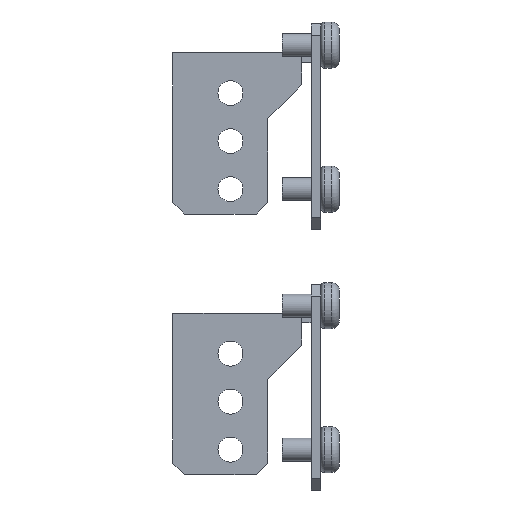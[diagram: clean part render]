
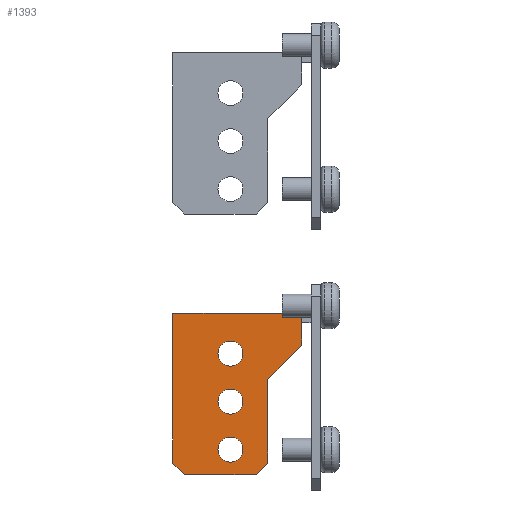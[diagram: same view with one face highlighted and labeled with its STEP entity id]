
A CAD part, front view. The second image highlights one B-rep face of the part: STEP entity #1393.
In plain terms, the highlighted planar face has unit normal (0, -1, 0).
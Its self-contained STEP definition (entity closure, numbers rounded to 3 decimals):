
#15 = DIRECTION ( 'NONE',  ( 0., 0., 1. ) ) ;
#16 = CARTESIAN_POINT ( 'NONE',  ( -173.5, 0., -35.5 ) ) ;
#18 = EDGE_LOOP ( 'NONE', ( #2769, #2122 ) ) ;
#32 = CARTESIAN_POINT ( 'NONE',  ( -188.5, 0., 0. ) ) ;
#49 = DIRECTION ( 'NONE',  ( 0., 0., 1. ) ) ;
#72 = VERTEX_POINT ( 'NONE', #1595 ) ;
#202 = CIRCLE ( 'NONE', #1526, 3.25 ) ;
#206 = DIRECTION ( 'NONE',  ( -1., 0., 0. ) ) ;
#238 = ORIENTED_EDGE ( 'NONE', *, *, #778, .F. ) ;
#251 = VERTEX_POINT ( 'NONE', #718 ) ;
#254 = CARTESIAN_POINT ( 'NONE',  ( -173.5, 0., -10.5 ) ) ;
#257 = VERTEX_POINT ( 'NONE', #2363 ) ;
#259 = CARTESIAN_POINT ( 'NONE',  ( -188.5, 0., 0. ) ) ;
#260 = AXIS2_PLACEMENT_3D ( 'NONE', #1599, #672, #2544 ) ;
#281 = VECTOR ( 'NONE', #290, 1000. ) ;
#286 = VERTEX_POINT ( 'NONE', #1776 ) ;
#290 = DIRECTION ( 'NONE',  ( 0., 0., 1. ) ) ;
#320 = DIRECTION ( 'NONE',  ( 0., 0., 1. ) ) ;
#322 = VERTEX_POINT ( 'NONE', #809 ) ;
#347 = DIRECTION ( 'NONE',  ( 0., 0., -1. ) ) ;
#403 = CARTESIAN_POINT ( 'NONE',  ( -173.5, 0., -26.25 ) ) ;
#411 = EDGE_CURVE ( 'NONE', #1889, #251, #2651, .T. ) ;
#446 = EDGE_CURVE ( 'NONE', #286, #2668, #513, .T. ) ;
#454 = DIRECTION ( 'NONE',  ( 0., 0., 1. ) ) ;
#513 = LINE ( 'NONE', #1452, #2451 ) ;
#521 = AXIS2_PLACEMENT_3D ( 'NONE', #2556, #959, #454 ) ;
#529 = EDGE_CURVE ( 'NONE', #1363, #2549, #202, .T. ) ;
#536 = CARTESIAN_POINT ( 'NONE',  ( -173.5, 0., -10.5 ) ) ;
#637 = DIRECTION ( 'NONE',  ( 0., 0., -1. ) ) ;
#669 = DIRECTION ( 'NONE',  ( -0.707, 0., -0.707 ) ) ;
#672 = DIRECTION ( 'NONE',  ( 0., 1., 0. ) ) ;
#680 = CARTESIAN_POINT ( 'NONE',  ( -155., 0., 0. ) ) ;
#695 = DIRECTION ( 'NONE',  ( 0., 0., 1. ) ) ;
#718 = CARTESIAN_POINT ( 'NONE',  ( -188.5, 0., -39. ) ) ;
#727 = AXIS2_PLACEMENT_3D ( 'NONE', #2666, #1515, #347 ) ;
#734 = VECTOR ( 'NONE', #1742, 1000. ) ;
#748 = ORIENTED_EDGE ( 'NONE', *, *, #941, .T. ) ;
#778 = EDGE_CURVE ( 'NONE', #72, #1210, #2576, .T. ) ;
#779 = FACE_BOUND ( 'NONE', #1059, .T. ) ;
#795 = PLANE ( 'NONE',  #727 ) ;
#809 = CARTESIAN_POINT ( 'NONE',  ( -173.5, 0., -19.75 ) ) ;
#814 = EDGE_CURVE ( 'NONE', #2668, #1210, #1935, .T. ) ;
#866 = CIRCLE ( 'NONE', #521, 3.25 ) ;
#878 = VECTOR ( 'NONE', #1596, 1000. ) ;
#892 = LINE ( 'NONE', #1837, #1812 ) ;
#896 = ORIENTED_EDGE ( 'NONE', *, *, #2032, .F. ) ;
#932 = DIRECTION ( 'NONE',  ( 0., 1., 0. ) ) ;
#941 = EDGE_CURVE ( 'NONE', #2549, #1363, #1418, .T. ) ;
#959 = DIRECTION ( 'NONE',  ( 0., 1., 0. ) ) ;
#1057 = DIRECTION ( 'NONE',  ( 0., 1., 0. ) ) ;
#1058 = EDGE_CURVE ( 'NONE', #1136, #1443, #3012, .T. ) ;
#1059 = EDGE_LOOP ( 'NONE', ( #1234, #748 ) ) ;
#1064 = VECTOR ( 'NONE', #1204, 1000. ) ;
#1122 = EDGE_CURVE ( 'NONE', #2076, #257, #892, .T. ) ;
#1136 = VERTEX_POINT ( 'NONE', #2145 ) ;
#1204 = DIRECTION ( 'NONE',  ( -1., 0., 0. ) ) ;
#1210 = VERTEX_POINT ( 'NONE', #32 ) ;
#1234 = ORIENTED_EDGE ( 'NONE', *, *, #529, .T. ) ;
#1255 = EDGE_CURVE ( 'NONE', #1354, #1487, #2780, .T. ) ;
#1258 = EDGE_CURVE ( 'NONE', #322, #2752, #866, .T. ) ;
#1354 = VERTEX_POINT ( 'NONE', #2683 ) ;
#1358 = LINE ( 'NONE', #2308, #2383 ) ;
#1363 = VERTEX_POINT ( 'NONE', #2897 ) ;
#1393 = ADVANCED_FACE ( 'NONE', ( #779, #1727, #2925, #1962 ), #795, .F. ) ;
#1418 = CIRCLE ( 'NONE', #2784, 3.25 ) ;
#1443 = VERTEX_POINT ( 'NONE', #2520 ) ;
#1452 = CARTESIAN_POINT ( 'NONE',  ( -155., 0., -5. ) ) ;
#1487 = VERTEX_POINT ( 'NONE', #2345 ) ;
#1515 = DIRECTION ( 'NONE',  ( 0., 1., 0. ) ) ;
#1526 = AXIS2_PLACEMENT_3D ( 'NONE', #254, #2338, #15 ) ;
#1595 = CARTESIAN_POINT ( 'NONE',  ( -188.5, 0., -5. ) ) ;
#1596 = DIRECTION ( 'NONE',  ( -0.707, 0., -0.707 ) ) ;
#1599 = CARTESIAN_POINT ( 'NONE',  ( -173.5, 0., -23. ) ) ;
#1610 = ORIENTED_EDGE ( 'NONE', *, *, #446, .T. ) ;
#1634 = DIRECTION ( 'NONE',  ( 0., 0., 1. ) ) ;
#1716 = AXIS2_PLACEMENT_3D ( 'NONE', #3025, #2758, #1888 ) ;
#1727 = FACE_BOUND ( 'NONE', #18, .T. ) ;
#1742 = DIRECTION ( 'NONE',  ( 0., 0., -1. ) ) ;
#1771 = LINE ( 'NONE', #2895, #734 ) ;
#1776 = CARTESIAN_POINT ( 'NONE',  ( -155., 0., -5. ) ) ;
#1781 = VECTOR ( 'NONE', #637, 1000. ) ;
#1812 = VECTOR ( 'NONE', #669, 1000. ) ;
#1837 = CARTESIAN_POINT ( 'NONE',  ( -148.31, 0., -1.69 ) ) ;
#1856 = ORIENTED_EDGE ( 'NONE', *, *, #2691, .T. ) ;
#1867 = EDGE_LOOP ( 'NONE', ( #2306, #1856 ) ) ;
#1888 = DIRECTION ( 'NONE',  ( 0., 0., 1. ) ) ;
#1889 = VERTEX_POINT ( 'NONE', #1975 ) ;
#1915 = CARTESIAN_POINT ( 'NONE',  ( -155., 0., 0. ) ) ;
#1935 = LINE ( 'NONE', #2809, #1064 ) ;
#1936 = EDGE_CURVE ( 'NONE', #257, #1136, #1771, .T. ) ;
#1962 = FACE_OUTER_BOUND ( 'NONE', #2831, .T. ) ;
#1975 = CARTESIAN_POINT ( 'NONE',  ( -185.5, 0., -42. ) ) ;
#2021 = ORIENTED_EDGE ( 'NONE', *, *, #1058, .F. ) ;
#2032 = EDGE_CURVE ( 'NONE', #286, #2076, #2999, .T. ) ;
#2055 = ORIENTED_EDGE ( 'NONE', *, *, #2812, .F. ) ;
#2076 = VERTEX_POINT ( 'NONE', #2503 ) ;
#2097 = LINE ( 'NONE', #2802, #2975 ) ;
#2122 = ORIENTED_EDGE ( 'NONE', *, *, #2459, .T. ) ;
#2145 = CARTESIAN_POINT ( 'NONE',  ( -163.78, 0., -39. ) ) ;
#2207 = VECTOR ( 'NONE', #2612, 1000. ) ;
#2270 = CIRCLE ( 'NONE', #260, 3.25 ) ;
#2291 = CIRCLE ( 'NONE', #1716, 3.25 ) ;
#2306 = ORIENTED_EDGE ( 'NONE', *, *, #1255, .T. ) ;
#2308 = CARTESIAN_POINT ( 'NONE',  ( -150., 0., -42. ) ) ;
#2314 = CARTESIAN_POINT ( 'NONE',  ( -137.39, 0., -12.61 ) ) ;
#2338 = DIRECTION ( 'NONE',  ( 0., 1., 0. ) ) ;
#2345 = CARTESIAN_POINT ( 'NONE',  ( -173.5, 0., -38.75 ) ) ;
#2363 = CARTESIAN_POINT ( 'NONE',  ( -163.78, 0., -17.16 ) ) ;
#2383 = VECTOR ( 'NONE', #206, 1000. ) ;
#2451 = VECTOR ( 'NONE', #49, 1000. ) ;
#2459 = EDGE_CURVE ( 'NONE', #2752, #322, #2270, .T. ) ;
#2462 = CARTESIAN_POINT ( 'NONE',  ( -173.5, 0., -13.75 ) ) ;
#2498 = ORIENTED_EDGE ( 'NONE', *, *, #814, .T. ) ;
#2503 = CARTESIAN_POINT ( 'NONE',  ( -155., 0., -8.38 ) ) ;
#2520 = CARTESIAN_POINT ( 'NONE',  ( -166.78, 0., -42. ) ) ;
#2525 = ORIENTED_EDGE ( 'NONE', *, *, #1936, .F. ) ;
#2544 = DIRECTION ( 'NONE',  ( 0., 0., 1. ) ) ;
#2549 = VERTEX_POINT ( 'NONE', #2462 ) ;
#2556 = CARTESIAN_POINT ( 'NONE',  ( -173.5, 0., -23. ) ) ;
#2576 = LINE ( 'NONE', #259, #281 ) ;
#2612 = DIRECTION ( 'NONE',  ( -0.707, 0., 0.707 ) ) ;
#2651 = LINE ( 'NONE', #2879, #2207 ) ;
#2663 = ORIENTED_EDGE ( 'NONE', *, *, #411, .F. ) ;
#2666 = CARTESIAN_POINT ( 'NONE',  ( -150., 0., 0. ) ) ;
#2668 = VERTEX_POINT ( 'NONE', #680 ) ;
#2683 = CARTESIAN_POINT ( 'NONE',  ( -173.5, 0., -32.25 ) ) ;
#2691 = EDGE_CURVE ( 'NONE', #1487, #1354, #2291, .T. ) ;
#2711 = EDGE_CURVE ( 'NONE', #1443, #1889, #1358, .T. ) ;
#2752 = VERTEX_POINT ( 'NONE', #403 ) ;
#2758 = DIRECTION ( 'NONE',  ( 0., 1., 0. ) ) ;
#2769 = ORIENTED_EDGE ( 'NONE', *, *, #1258, .T. ) ;
#2780 = CIRCLE ( 'NONE', #2924, 3.25 ) ;
#2784 = AXIS2_PLACEMENT_3D ( 'NONE', #536, #1057, #320 ) ;
#2802 = CARTESIAN_POINT ( 'NONE',  ( -188.5, 0., 0. ) ) ;
#2809 = CARTESIAN_POINT ( 'NONE',  ( -150., 0., 0. ) ) ;
#2812 = EDGE_CURVE ( 'NONE', #251, #72, #2097, .T. ) ;
#2831 = EDGE_LOOP ( 'NONE', ( #896, #1610, #2498, #238, #2055, #2663, #2917, #2021, #2525, #2921 ) ) ;
#2879 = CARTESIAN_POINT ( 'NONE',  ( -188.75, 0., -38.75 ) ) ;
#2895 = CARTESIAN_POINT ( 'NONE',  ( -163.78, 0., 0. ) ) ;
#2897 = CARTESIAN_POINT ( 'NONE',  ( -173.5, 0., -7.25 ) ) ;
#2917 = ORIENTED_EDGE ( 'NONE', *, *, #2711, .F. ) ;
#2921 = ORIENTED_EDGE ( 'NONE', *, *, #1122, .F. ) ;
#2924 = AXIS2_PLACEMENT_3D ( 'NONE', #16, #932, #1634 ) ;
#2925 = FACE_BOUND ( 'NONE', #1867, .T. ) ;
#2975 = VECTOR ( 'NONE', #695, 1000. ) ;
#2999 = LINE ( 'NONE', #1915, #1781 ) ;
#3012 = LINE ( 'NONE', #2314, #878 ) ;
#3025 = CARTESIAN_POINT ( 'NONE',  ( -173.5, 0., -35.5 ) ) ;
